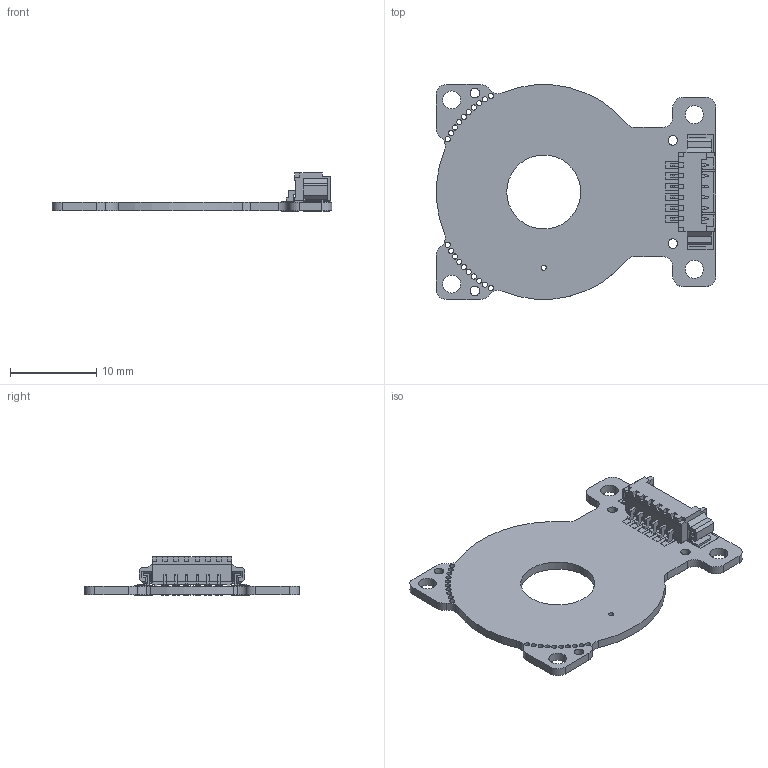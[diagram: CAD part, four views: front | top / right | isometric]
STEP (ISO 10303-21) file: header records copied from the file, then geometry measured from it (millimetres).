
FILE_DESCRIPTION (( 'STEP AP214' ), '1' );
FILE_NAME ('033_2015_0001_(25mm_B3_Sensor_FrontCon_3D).STEP', '2023-09-21T14:05:08', ( '' ), ( '' ), 'SwSTEP 2.0', 'SolidWorks 2020', '' );
FILE_SCHEMA (( 'AUTOMOTIVE_DESIGN' ));
Length unit declared in the file: millimetre
Products named in the file (3): Molex532610671; 033_2015_0001_(25mm_B3_Sensor_FrontCon_3D); 010-0158_0001_(25mm_B3_Rotary_Sensor_PCB)
Assembly tree (2 placements, depth 2):
  033_2015_0001_(25mm_B3_Sensor_FrontCon_3D)
    010-0158_0001_(25mm_B3_Rotary_Sensor_PCB)
    Molex532610671
Bounding box: 32.5 x 25 x 4.43 mm (x, y, z)
Volume: 701.1 mm3; surface area: 1791.4 mm2
Topology: 2 solids, 2 shells, 484 faces, 1304 edges, 854 vertices
Faces by surface type: plane 381, cylinder 103
Entity records: 20412 total; most frequent: CARTESIAN_POINT 2647, ORIENTED_EDGE 2608, DIRECTION 2492, EDGE_CURVE 1304, LINE 1094, VECTOR 1094, VERTEX_POINT 854, AXIS2_PLACEMENT_3D 699
